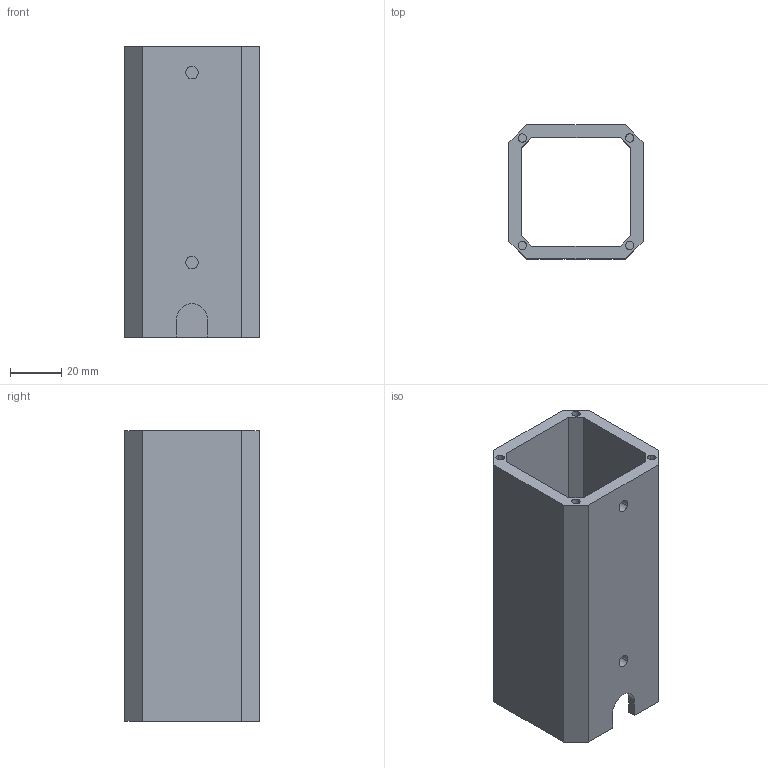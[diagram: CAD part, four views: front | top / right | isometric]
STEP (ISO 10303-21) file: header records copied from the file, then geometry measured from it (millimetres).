
FILE_DESCRIPTION(('CATIA V5 STEP Exchange'),'2;1');
FILE_NAME('C:\Users\Administrateur\Documents\Monture\Monture_voyage\Commande\Base.stp','2023-03-13T07:12:55+00:00',('none'),('none'),'CATIA Version 5 Release 18 GA (IN-10)','CATIA V5 STEP AP203','none');
FILE_SCHEMA(('CONFIG_CONTROL_DESIGN'));
Length unit declared in the file: millimetre
Products named in the file (1): Base
Bounding box: 52.3 x 52.31 x 113 mm (x, y, z)
Volume: 98092.5 mm3; surface area: 41953.6 mm2
Topology: 1 solids, 1 shells, 53 faces, 132 edges, 88 vertices
Faces by surface type: plane 31, cylinder 22
Entity records: 1520 total; most frequent: ORIENTED_EDGE 264, CARTESIAN_POINT 258, DIRECTION 206, EDGE_CURVE 132, VECTOR 88, LINE 88, VERTEX_POINT 88, AXIS2_PLACEMENT_3D 82
